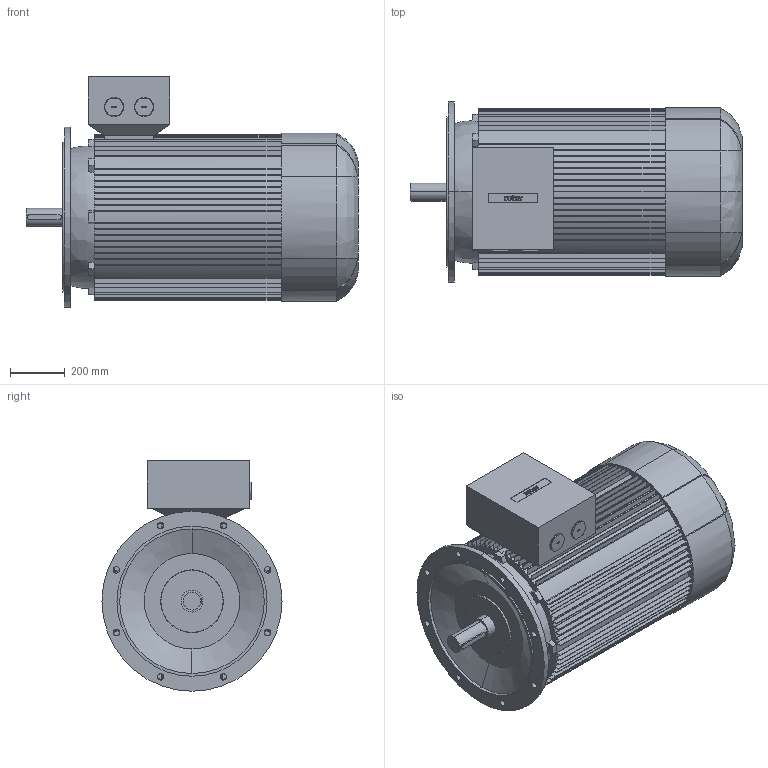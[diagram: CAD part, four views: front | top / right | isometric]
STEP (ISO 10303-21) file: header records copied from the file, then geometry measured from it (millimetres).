
FILE_DESCRIPTION (( 'STEP AP214' ), '1' );
FILE_NAME ('6RN315L02E34 IM3011.STEP', '2014-09-19T09:20:10', ( 'rbc_ict' ), ( 'REGAL' ), 'SwSTEP 2.0', 'SolidWorks 2012', '' );
FILE_SCHEMA (( 'AUTOMOTIVE_DESIGN' ));
Length unit declared in the file: millimetre
Products named in the file (1): 6RN315L02E34 IM3011
Bounding box: 1217 x 660 x 845 mm (x, y, z)
Volume: 298305131.3 mm3; surface area: 5107686.7 mm2
Topology: 1 solids, 1 shells, 626 faces, 1767 edges, 1164 vertices
Faces by surface type: plane 350, cylinder 210, bspline 58, cone 8
Entity records: 22709 total; most frequent: CARTESIAN_POINT 6438, ORIENTED_EDGE 3534, DIRECTION 3259, EDGE_CURVE 1767, VERTEX_POINT 1164, VECTOR 1121, LINE 1121, AXIS2_PLACEMENT_3D 1069
